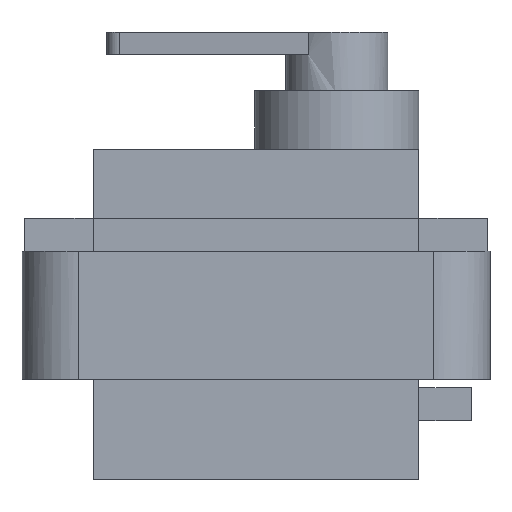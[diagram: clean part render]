
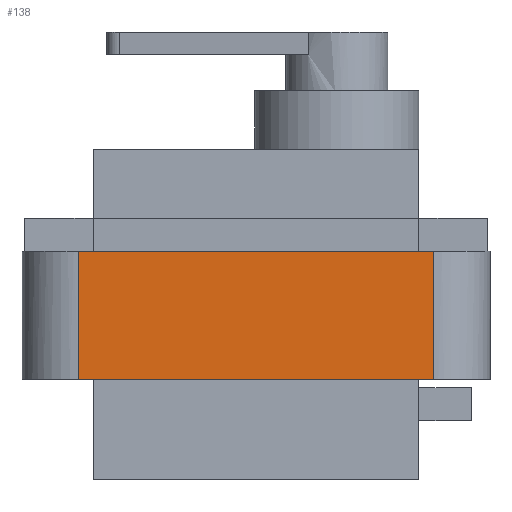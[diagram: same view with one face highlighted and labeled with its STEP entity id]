
A CAD part, left-side view. The second image highlights one B-rep face of the part: STEP entity #138.
In plain terms, the highlighted planar face has unit normal (-1, 0, 0).
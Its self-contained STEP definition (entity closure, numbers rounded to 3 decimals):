
#138=ADVANCED_FACE('',(#226),#1405,.T.);
#226=FACE_OUTER_BOUND('',#330,.T.);
#330=EDGE_LOOP('',(#706,#707,#708,#709));
#706=ORIENTED_EDGE('',*,*,#957,.T.);
#707=ORIENTED_EDGE('',*,*,#955,.T.);
#708=ORIENTED_EDGE('',*,*,#951,.T.);
#709=ORIENTED_EDGE('',*,*,#954,.F.);
#951=EDGE_CURVE('',#1309,#1308,#1176,.T.);
#954=EDGE_CURVE('',#1311,#1308,#1177,.T.);
#955=EDGE_CURVE('',#1312,#1309,#1178,.T.);
#957=EDGE_CURVE('',#1311,#1312,#1180,.T.);
#1176=B_SPLINE_CURVE_WITH_KNOTS('',1,(#2571,#2572),.UNSPECIFIED.,.F.,.F.,
(2,2),(0.,9.),.UNSPECIFIED.);
#1177=B_SPLINE_CURVE_WITH_KNOTS('',1,(#2579,#2580),.UNSPECIFIED.,.F.,.F.,
(2,2),(-14.43,-2.),.UNSPECIFIED.);
#1178=B_SPLINE_CURVE_WITH_KNOTS('',1,(#2581,#2582),.UNSPECIFIED.,.F.,.F.,
(2,2),(-14.43,-2.),.UNSPECIFIED.);
#1180=B_SPLINE_CURVE_WITH_KNOTS('',1,(#2585,#2586),.UNSPECIFIED.,.F.,.F.,
(2,2),(0.,9.),.UNSPECIFIED.);
#1308=VERTEX_POINT('',#2505);
#1309=VERTEX_POINT('',#2506);
#1311=VERTEX_POINT('',#2508);
#1312=VERTEX_POINT('',#2509);
#1405=PLANE('',#1483);
#1483=AXIS2_PLACEMENT_3D('',#2440,#1544,$);
#1544=DIRECTION('',(-1.,0.,0.));
#2440=CARTESIAN_POINT('',(-10.96,-16.43,-4.5));
#2505=CARTESIAN_POINT('',(-10.96,-12.43,4.5));
#2506=CARTESIAN_POINT('',(-10.96,-12.43,-4.5));
#2508=CARTESIAN_POINT('',(-10.96,12.43,4.5));
#2509=CARTESIAN_POINT('',(-10.96,12.43,-4.5));
#2571=CARTESIAN_POINT('',(-10.96,-12.43,-4.5));
#2572=CARTESIAN_POINT('',(-10.96,-12.43,4.5));
#2579=CARTESIAN_POINT('',(-10.96,12.43,4.5));
#2580=CARTESIAN_POINT('',(-10.96,-12.43,4.5));
#2581=CARTESIAN_POINT('',(-10.96,12.43,-4.5));
#2582=CARTESIAN_POINT('',(-10.96,-12.43,-4.5));
#2585=CARTESIAN_POINT('',(-10.96,12.43,4.5));
#2586=CARTESIAN_POINT('',(-10.96,12.43,-4.5));
